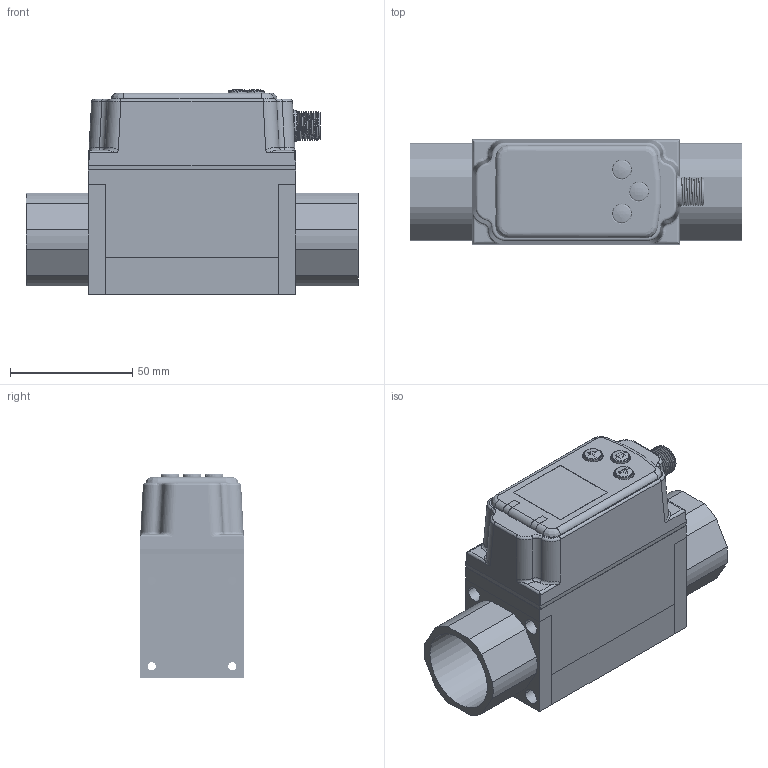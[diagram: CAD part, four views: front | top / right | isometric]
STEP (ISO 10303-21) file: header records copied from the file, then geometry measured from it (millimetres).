
FILE_DESCRIPTION (( 'STEP AP214' ), '1' );
FILE_NAME ('BFV2X25.STEP', '2025-06-25T07:47:15', ( '' ), ( '' ), 'SwSTEP 2.0', 'SolidWorks 2022', '' );
FILE_SCHEMA (( 'AUTOMOTIVE_DESIGN' ));
Length unit declared in the file: millimetre
Products named in the file (36): ADMI2E7CDAE9GQ3D_5^ADMI2E7CDAE9GQ3D_ASM_FXH-02000_ASM_BFV2X10(2)_BFV2X20; 07190001_ASM^BFV2X10(2)_BFV2X20; ADMI2E7CDAE9GQ3D_14^ADMI2E7CDAE9GQ3D_ASM_FXH-02000_ASM_BFV2X10(2)_BFV2X20; ADMI2E7CDAE9GQ3D_7^ADMI2E7CDAE9GQ3D_ASM_FXH-02000_ASM_BFV2X10(2)_BFV2X20; 071-316170001^07190001_ASM_BFV2X10(2)_BFV2X20; ADMI2E7CDAE9GQ3D_12^ADMI2E7CDAE9GQ3D_ASM_FXH-02000_ASM_BFV2X10(2)_BFV2X20; 071-316180001^07190001_ASM_BFV2X10(2)_BFV2X20; ADMI2E7CDAE9GQ3D_16^ADMI2E7CDAE9GQ3D_ASM_FXH-02000_ASM_BFV2X10(2)_BFV2X20; ADMI2E7CDAE9GQ3D_9^ADMI2E7CDAE9GQ3D_ASM_FXH-02000_ASM_BFV2X10(2)_BFV2X20; FXH-02000_ASM^BFV2X10(2)_BFV2X20; ADMI2E7CDAE9GQ3D_1^ADMI2E7CDAE9GQ3D_ASM_FXH-02000_ASM_BFV2X10(2)_BFV2X20; ADMI2E7CDAE9GQ3D_20^ADMI2E7CDAE9GQ3D_ASM_FXH-02000_ASM_BFV2X10(2)_BFV2X20; ADMI2E7CDAE9GQ3D_17^ADMI2E7CDAE9GQ3D_ASM_FXH-02000_ASM_BFV2X10(2)_BFV2X20; ADMI2E7CDAE9GQ3D_2^ADMI2E7CDAE9GQ3D_ASM_FXH-02000_ASM_BFV2X10(2)_BFV2X20; 071-316150001^07190001_ASM_BFV2X10(2)_BFV2X20; ADMI2E7CDAE9GQ3D_18^ADMI2E7CDAE9GQ3D_ASM_FXH-02000_ASM_BFV2X10(2)_BFV2X20; 50001^07190001_ASM_BFV2X10(2)_BFV2X20; BFV2X10(2)^BFV2X20; 0001^07190001_ASM_BFV2X10(2)_BFV2X10; ADMI2E7CDAE9GQ3D_4^ADMI2E7CDAE9GQ3D_ASM_FXH-02000_ASM_BFV2X10(2)_BFV2X20; 071-316160001^07190001_ASM_BFV2X10(2)_BFV2X20; 222; ADMI2E7CDAE9GQ3D_ASM^FXH-02000_ASM_BFV2X10(2)_BFV2X20; ADMI2E7CDAE9GQ3D_13^ADMI2E7CDAE9GQ3D_ASM_FXH-02000_ASM_BFV2X10(2)_BFV2X20; ADMI2E7CDAE9GQ3D_11^ADMI2E7CDAE9GQ3D_ASM_FXH-02000_ASM_BFV2X10(2)_BFV2X20; 071-316220001^07190001_ASM_BFV2X10(2)_BFV2X20; ADMI2E7CDAE9GQ3D_6^ADMI2E7CDAE9GQ3D_ASM_FXH-02000_ASM_BFV2X10(2)_BFV2X20; 071-316200001^07190001_ASM_BFV2X10(2)_BFV2X20; 071-316190001^07190001_ASM_BFV2X10(2)_BFV2X20; ADMI2E7CDAE9GQ3D_3^ADMI2E7CDAE9GQ3D_ASM_FXH-02000_ASM_BFV2X10(2)_BFV2X20; ADMI2E7CDAE9GQ3D_15^ADMI2E7CDAE9GQ3D_ASM_FXH-02000_ASM_BFV2X10(2)_BFV2X20; ADMI2E7CDAE9GQ3D_19^ADMI2E7CDAE9GQ3D_ASM_FXH-02000_ASM_BFV2X10(2)_BFV2X20; ADMI2E7CDAE9GQ3D_8^ADMI2E7CDAE9GQ3D_ASM_FXH-02000_ASM_BFV2X10(2)_BFV2X20; ADMI2E7CDAE9GQ3D_10^ADMI2E7CDAE9GQ3D_ASM_FXH-02000_ASM_BFV2X10(2)_BFV2X20; 071-316210001^07190001_ASM_BFV2X10(2)_BFV2X20; BFV2X25
Assembly tree (37 placements, depth 5):
  BFV2X25
    BFV2X10(2)^BFV2X20
      07190001_ASM^BFV2X10(2)_BFV2X20
        50001^07190001_ASM_BFV2X10(2)_BFV2X20
        071-316150001^07190001_ASM_BFV2X10(2)_BFV2X20
        071-316160001^07190001_ASM_BFV2X10(2)_BFV2X20
        071-316170001^07190001_ASM_BFV2X10(2)_BFV2X20
        071-316180001^07190001_ASM_BFV2X10(2)_BFV2X20
        071-316190001^07190001_ASM_BFV2X10(2)_BFV2X20
        071-316200001^07190001_ASM_BFV2X10(2)_BFV2X20
        071-316210001^07190001_ASM_BFV2X10(2)_BFV2X20
        071-316220001^07190001_ASM_BFV2X10(2)_BFV2X20
        0001^07190001_ASM_BFV2X10(2)_BFV2X10
      FXH-02000_ASM^BFV2X10(2)_BFV2X20
        ADMI2E7CDAE9GQ3D_ASM^FXH-02000_ASM_BFV2X10(2)_BFV2X20
          ADMI2E7CDAE9GQ3D_1^ADMI2E7CDAE9GQ3D_ASM_FXH-02000_ASM_BFV2X10(2)_BFV2X20
          ADMI2E7CDAE9GQ3D_2^ADMI2E7CDAE9GQ3D_ASM_FXH-02000_ASM_BFV2X10(2)_BFV2X20
          ADMI2E7CDAE9GQ3D_3^ADMI2E7CDAE9GQ3D_ASM_FXH-02000_ASM_BFV2X10(2)_BFV2X20
          ADMI2E7CDAE9GQ3D_4^ADMI2E7CDAE9GQ3D_ASM_FXH-02000_ASM_BFV2X10(2)_BFV2X20
          ADMI2E7CDAE9GQ3D_5^ADMI2E7CDAE9GQ3D_ASM_FXH-02000_ASM_BFV2X10(2)_BFV2X20
          ADMI2E7CDAE9GQ3D_6^ADMI2E7CDAE9GQ3D_ASM_FXH-02000_ASM_BFV2X10(2)_BFV2X20
          ADMI2E7CDAE9GQ3D_7^ADMI2E7CDAE9GQ3D_ASM_FXH-02000_ASM_BFV2X10(2)_BFV2X20
          ADMI2E7CDAE9GQ3D_8^ADMI2E7CDAE9GQ3D_ASM_FXH-02000_ASM_BFV2X10(2)_BFV2X20
          ADMI2E7CDAE9GQ3D_9^ADMI2E7CDAE9GQ3D_ASM_FXH-02000_ASM_BFV2X10(2)_BFV2X20
          ADMI2E7CDAE9GQ3D_10^ADMI2E7CDAE9GQ3D_ASM_FXH-02000_ASM_BFV2X10(2)_BFV2X20
          ADMI2E7CDAE9GQ3D_11^ADMI2E7CDAE9GQ3D_ASM_FXH-02000_ASM_BFV2X10(2)_BFV2X20
          ADMI2E7CDAE9GQ3D_12^ADMI2E7CDAE9GQ3D_ASM_FXH-02000_ASM_BFV2X10(2)_BFV2X20
          ADMI2E7CDAE9GQ3D_13^ADMI2E7CDAE9GQ3D_ASM_FXH-02000_ASM_BFV2X10(2)_BFV2X20
          ADMI2E7CDAE9GQ3D_14^ADMI2E7CDAE9GQ3D_ASM_FXH-02000_ASM_BFV2X10(2)_BFV2X20
          ADMI2E7CDAE9GQ3D_15^ADMI2E7CDAE9GQ3D_ASM_FXH-02000_ASM_BFV2X10(2)_BFV2X20
          ADMI2E7CDAE9GQ3D_16^ADMI2E7CDAE9GQ3D_ASM_FXH-02000_ASM_BFV2X10(2)_BFV2X20
          ADMI2E7CDAE9GQ3D_17^ADMI2E7CDAE9GQ3D_ASM_FXH-02000_ASM_BFV2X10(2)_BFV2X20
          ADMI2E7CDAE9GQ3D_18^ADMI2E7CDAE9GQ3D_ASM_FXH-02000_ASM_BFV2X10(2)_BFV2X20
          ADMI2E7CDAE9GQ3D_19^ADMI2E7CDAE9GQ3D_ASM_FXH-02000_ASM_BFV2X10(2)_BFV2X20
          ADMI2E7CDAE9GQ3D_20^ADMI2E7CDAE9GQ3D_ASM_FXH-02000_ASM_BFV2X10(2)_BFV2X20
    0001^07190001_ASM_BFV2X10(2)_BFV2X10
    222  x2
Bounding box: 136 x 43 x 83.95 mm (x, y, z)
Volume: 144183.9 mm3; surface area: 128026.4 mm2
Topology: 30 solids, 41 shells, 3637 faces, 10286 edges, 6827 vertices
Faces by surface type: plane 1862, cylinder 1322, cone 180, bspline 173, torus 88, sphere 12
Entity records: 173506 total; most frequent: CARTESIAN_POINT 91762, ORIENTED_EDGE 20182, DIRECTION 11474, EDGE_CURVE 10148, B_SPLINE_CURVE_WITH_KNOTS 6771, VERTEX_POINT 6743, AXIS2_PLACEMENT_3D 4677, EDGE_LOOP 3860
